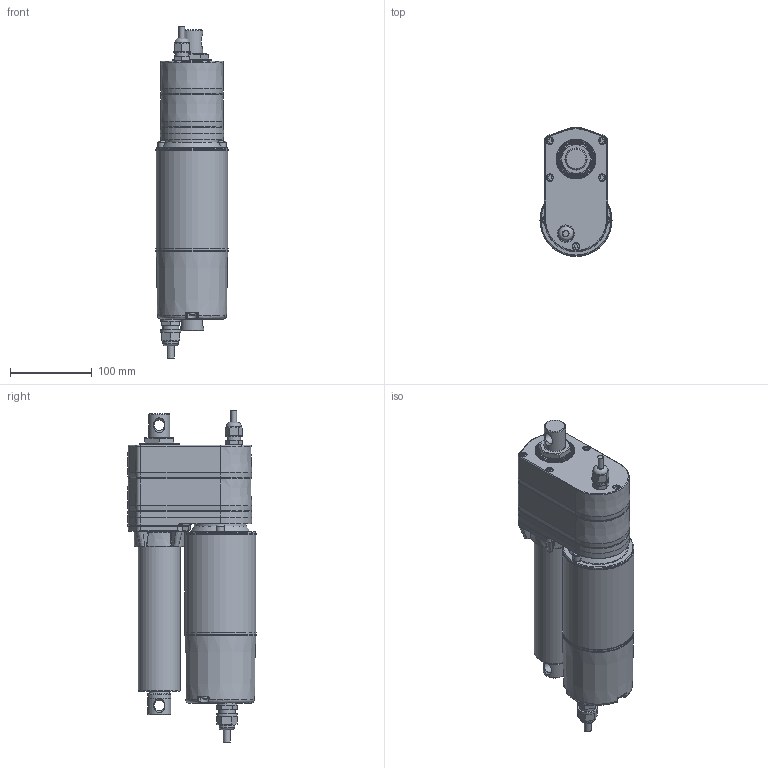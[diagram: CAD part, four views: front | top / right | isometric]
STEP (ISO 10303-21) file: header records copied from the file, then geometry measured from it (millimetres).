
FILE_DESCRIPTION (( 'STEP AP203' ), '1' );
FILE_NAME ('IA5-BALL+POT-102.STEP', '2019-02-27T09:15:04', ( '' ), ( '' ), 'SwSTEP 2.0', 'SolidWorks 2015', '' );
FILE_SCHEMA (( 'CONFIG_CONTROL_DESIGN' ));
Length unit declared in the file: millimetre
Products named in the file (3): IA5-BALL+POT-102; IA05-B-1; IA05-B-2
Assembly tree (2 placements, depth 2):
  IA5-BALL+POT-102
    IA05-B-1
    IA05-B-2
Bounding box: 88 x 157.08 x 405.23 mm (x, y, z)
Volume: 2795025.5 mm3; surface area: 201826.6 mm2
Topology: 2 solids, 2 shells, 1061 faces, 2689 edges, 1669 vertices
Faces by surface type: plane 614, cylinder 186, bspline 106, torus 100, cone 49, sphere 6
Full cylindrical faces by diameter (mm): 7 x4, 8.5 x6, 9 x5, 13 x2, 16.5 x2, 18 x1, 19 x1, 20 x1, 21 x1, 24 x1, 25 x1, 26 x1, 28 x1, 28.1 x1, 28.6 x4, 28.62 x1, 48.2 x1, 50.8 x1, 63.5 x1, 87 x3, 88 x3
Entity records: 35260 total; most frequent: CARTESIAN_POINT 12170, ORIENTED_EDGE 5176, DIRECTION 4300, EDGE_CURVE 2588, VERTEX_POINT 1647, AXIS2_PLACEMENT_3D 1632, EDGE_LOOP 1181, FACE_OUTER_BOUND 1120
